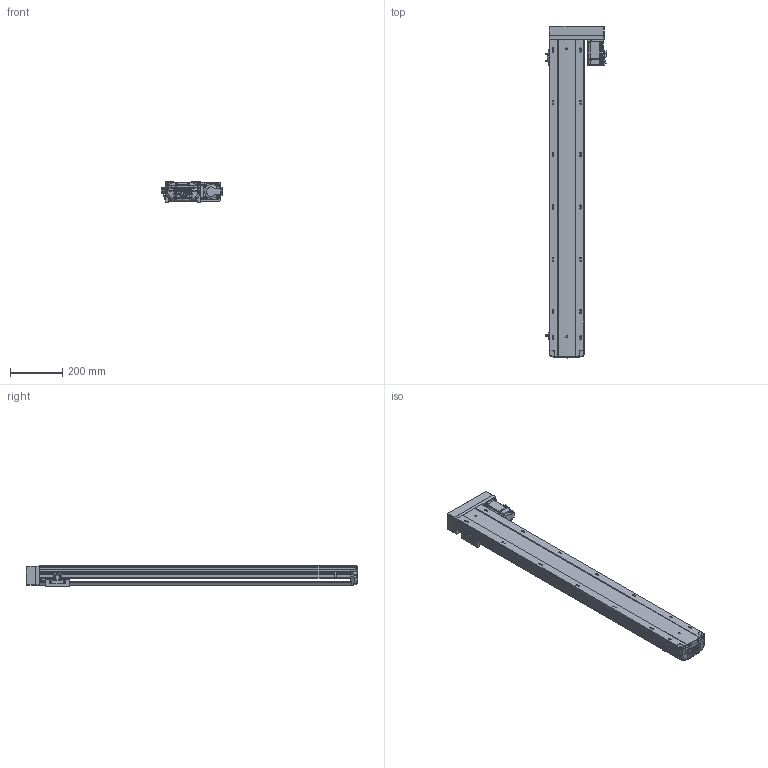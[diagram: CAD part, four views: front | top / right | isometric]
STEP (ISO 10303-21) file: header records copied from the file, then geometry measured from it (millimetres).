
FILE_DESCRIPTION (( 'STEP AP203' ), '1' );
FILE_NAME ('21.STEP', '2020-11-07T00:28:16', ( '' ), ( '' ), 'SwSTEP 2.0', 'SolidWorks 2016', '' );
FILE_SCHEMA (( 'CONFIG_CONTROL_DESIGN' ));
Length unit declared in the file: millimetre
Products named in the file (10): BTH13-BL-04; BTH13-BL-P20; BTH13-BL-03; BTH13-BL-BM-BR-菁釱; BTH13-BL-06; BTH13-BL-02; BTH13-BL-01; BTH13-BL-20; 21; BTH13-BL-HZ
Assembly tree (12 placements, depth 2):
  21
    BTH13-BL-BM-BR-菁釱
    BTH13-BL-03
    BTH13-BL-01
    BTH13-BL-02
    BTH13-BL-04  x4
    BTH13-BL-06
    BTH13-BL-HZ
    BTH13-BL-P20
    BTH13-BL-20
Bounding box: 233.2 x 1268.71 x 78 mm (x, y, z)
Volume: 5293039.8 mm3; surface area: 1214513.2 mm2
Topology: 13 solids, 13 shells, 2033 faces, 5458 edges, 3513 vertices
Faces by surface type: plane 1110, cylinder 555, bspline 201, cone 134, torus 33
Entity records: 63701 total; most frequent: CARTESIAN_POINT 21850, ORIENTED_EDGE 8898, DIRECTION 7926, EDGE_CURVE 4449, VERTEX_POINT 2877, AXIS2_PLACEMENT_3D 2703, LINE 2520, VECTOR 2520
